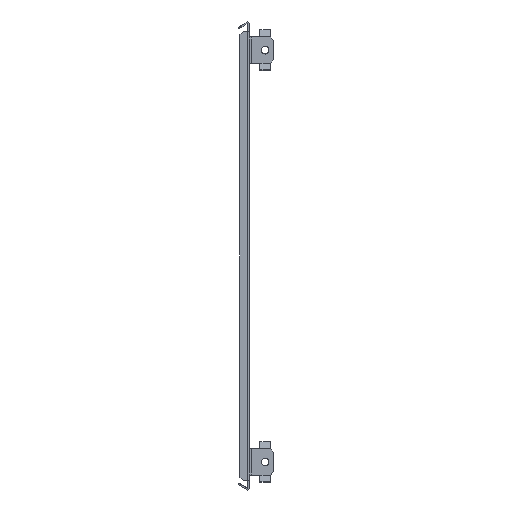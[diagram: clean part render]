
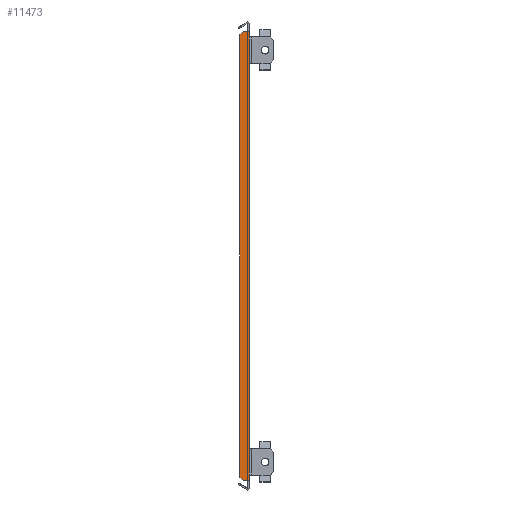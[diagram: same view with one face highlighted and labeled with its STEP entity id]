
A CAD part, front view. The second image highlights one B-rep face of the part: STEP entity #11473.
In plain terms, the highlighted planar face has unit normal (0, -1, 0).
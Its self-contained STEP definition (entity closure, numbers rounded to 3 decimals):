
#164 = VECTOR ( 'NONE', #23174, 1000. ) ;
#210 = CARTESIAN_POINT ( 'NONE',  ( 0., -253., 190.897 ) ) ;
#324 = DIRECTION ( 'NONE',  ( 0., 0., 1. ) ) ;
#618 = DIRECTION ( 'NONE',  ( 1., 0., 0. ) ) ;
#796 = VECTOR ( 'NONE', #12654, 1000. ) ;
#1669 = VECTOR ( 'NONE', #8656, 1000. ) ;
#1799 = VERTEX_POINT ( 'NONE', #15809 ) ;
#2089 = VERTEX_POINT ( 'NONE', #12026 ) ;
#2602 = CARTESIAN_POINT ( 'NONE',  ( -2.5, -253., -190.897 ) ) ;
#2627 = DIRECTION ( 'NONE',  ( 0., 1., 0. ) ) ;
#2699 = EDGE_CURVE ( 'NONE', #16042, #12864, #4066, .T. ) ;
#3964 = EDGE_CURVE ( 'NONE', #12864, #9061, #8755, .T. ) ;
#4066 = LINE ( 'NONE', #20706, #12763 ) ;
#4674 = VECTOR ( 'NONE', #24570, 1000. ) ;
#4887 = DIRECTION ( 'NONE',  ( 0., 0., 1. ) ) ;
#6375 = LINE ( 'NONE', #14819, #15104 ) ;
#7653 = ORIENTED_EDGE ( 'NONE', *, *, #19777, .T. ) ;
#7681 = VECTOR ( 'NONE', #20758, 1000. ) ;
#8458 = ORIENTED_EDGE ( 'NONE', *, *, #3964, .T. ) ;
#8557 = CARTESIAN_POINT ( 'NONE',  ( 0., -253., -163.75 ) ) ;
#8627 = LINE ( 'NONE', #2602, #10166 ) ;
#8656 = DIRECTION ( 'NONE',  ( 0., 0., 1. ) ) ;
#8755 = LINE ( 'NONE', #12401, #796 ) ;
#9058 = CARTESIAN_POINT ( 'NONE',  ( 0., -253., 0. ) ) ;
#9061 = VERTEX_POINT ( 'NONE', #16972 ) ;
#9851 = ORIENTED_EDGE ( 'NONE', *, *, #24488, .F. ) ;
#10086 = AXIS2_PLACEMENT_3D ( 'NONE', #12556, #2627, #618 ) ;
#10166 = VECTOR ( 'NONE', #24853, 1000. ) ;
#10187 = ORIENTED_EDGE ( 'NONE', *, *, #17219, .T. ) ;
#10341 = ORIENTED_EDGE ( 'NONE', *, *, #2699, .T. ) ;
#10860 = CARTESIAN_POINT ( 'NONE',  ( 0., -253., -190.897 ) ) ;
#10991 = CARTESIAN_POINT ( 'NONE',  ( -8., -253., -187.897 ) ) ;
#11351 = DIRECTION ( 'NONE',  ( 0., 0., 1. ) ) ;
#11473 = ADVANCED_FACE ( 'NONE', ( #20735 ), #24740, .F. ) ;
#11724 = ORIENTED_EDGE ( 'NONE', *, *, #23040, .T. ) ;
#11881 = ORIENTED_EDGE ( 'NONE', *, *, #25483, .T. ) ;
#12026 = CARTESIAN_POINT ( 'NONE',  ( -5., -253., -190.897 ) ) ;
#12401 = CARTESIAN_POINT ( 'NONE',  ( 0., -253., 0. ) ) ;
#12556 = CARTESIAN_POINT ( 'NONE',  ( 0., -253., 0. ) ) ;
#12654 = DIRECTION ( 'NONE',  ( 0., 0., 1. ) ) ;
#12763 = VECTOR ( 'NONE', #324, 1000. ) ;
#12864 = VERTEX_POINT ( 'NONE', #14536 ) ;
#12941 = EDGE_CURVE ( 'NONE', #2089, #22393, #8627, .T. ) ;
#13335 = EDGE_LOOP ( 'NONE', ( #10187, #24590, #11724, #20240, #10341, #8458, #11881, #9851, #23427, #7653 ) ) ;
#14256 = LINE ( 'NONE', #18422, #4674 ) ;
#14308 = VERTEX_POINT ( 'NONE', #10991 ) ;
#14536 = CARTESIAN_POINT ( 'NONE',  ( 0., -253., 163.75 ) ) ;
#14793 = VERTEX_POINT ( 'NONE', #21030 ) ;
#14819 = CARTESIAN_POINT ( 'NONE',  ( -97.948, -253., 97.948 ) ) ;
#14820 = LINE ( 'NONE', #21400, #1669 ) ;
#15104 = VECTOR ( 'NONE', #20611, 1000. ) ;
#15118 = CARTESIAN_POINT ( 'NONE',  ( -97.948, -253., -97.948 ) ) ;
#15171 = VERTEX_POINT ( 'NONE', #210 ) ;
#15809 = CARTESIAN_POINT ( 'NONE',  ( 0., -253., -186.095 ) ) ;
#16042 = VERTEX_POINT ( 'NONE', #8557 ) ;
#16408 = EDGE_CURVE ( 'NONE', #14793, #26030, #6375, .T. ) ;
#16726 = LINE ( 'NONE', #21029, #7681 ) ;
#16972 = CARTESIAN_POINT ( 'NONE',  ( 0., -253., 186.095 ) ) ;
#17219 = EDGE_CURVE ( 'NONE', #14308, #2089, #19019, .T. ) ;
#18041 = CARTESIAN_POINT ( 'NONE',  ( 0., -253., 0. ) ) ;
#18422 = CARTESIAN_POINT ( 'NONE',  ( 0., -253., 190.897 ) ) ;
#19019 = LINE ( 'NONE', #15118, #164 ) ;
#19215 = VECTOR ( 'NONE', #11351, 1000. ) ;
#19777 = EDGE_CURVE ( 'NONE', #26030, #14308, #16726, .T. ) ;
#20240 = ORIENTED_EDGE ( 'NONE', *, *, #24483, .T. ) ;
#20611 = DIRECTION ( 'NONE',  ( -0.707, 0., -0.707 ) ) ;
#20706 = CARTESIAN_POINT ( 'NONE',  ( 0., -253., 0. ) ) ;
#20735 = FACE_OUTER_BOUND ( 'NONE', #13335, .T. ) ;
#20758 = DIRECTION ( 'NONE',  ( 0., 0., -1. ) ) ;
#21029 = CARTESIAN_POINT ( 'NONE',  ( -8., -253., 0. ) ) ;
#21030 = CARTESIAN_POINT ( 'NONE',  ( -5., -253., 190.897 ) ) ;
#21400 = CARTESIAN_POINT ( 'NONE',  ( 0., -253., 0. ) ) ;
#22393 = VERTEX_POINT ( 'NONE', #10860 ) ;
#23040 = EDGE_CURVE ( 'NONE', #22393, #1799, #24198, .T. ) ;
#23174 = DIRECTION ( 'NONE',  ( 0.707, 0., -0.707 ) ) ;
#23266 = LINE ( 'NONE', #9058, #26528 ) ;
#23427 = ORIENTED_EDGE ( 'NONE', *, *, #16408, .T. ) ;
#23646 = CARTESIAN_POINT ( 'NONE',  ( -8., -253., 187.897 ) ) ;
#24198 = LINE ( 'NONE', #18041, #19215 ) ;
#24483 = EDGE_CURVE ( 'NONE', #1799, #16042, #14820, .T. ) ;
#24488 = EDGE_CURVE ( 'NONE', #14793, #15171, #14256, .T. ) ;
#24570 = DIRECTION ( 'NONE',  ( 1., 0., 0. ) ) ;
#24590 = ORIENTED_EDGE ( 'NONE', *, *, #12941, .T. ) ;
#24740 = PLANE ( 'NONE',  #10086 ) ;
#24853 = DIRECTION ( 'NONE',  ( 1., 0., 0. ) ) ;
#25483 = EDGE_CURVE ( 'NONE', #9061, #15171, #23266, .T. ) ;
#26030 = VERTEX_POINT ( 'NONE', #23646 ) ;
#26528 = VECTOR ( 'NONE', #4887, 1000. ) ;
